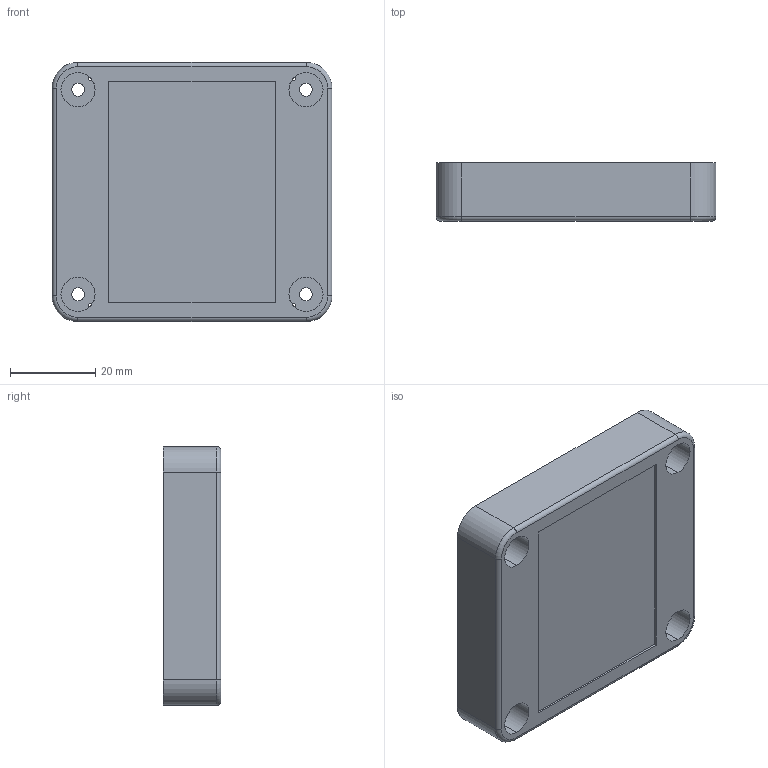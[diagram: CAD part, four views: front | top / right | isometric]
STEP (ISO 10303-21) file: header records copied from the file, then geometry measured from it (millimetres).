
FILE_DESCRIPTION (( 'STEP AP214' ), '1' );
FILE_NAME ('Tapa PP74.STEP', '2018-01-04T15:52:44', ( 'aaa' ), ( '' ), 'SwSTEP 2.0', 'SolidWorks 2013', '' );
FILE_SCHEMA (( 'AUTOMOTIVE_DESIGN' ));
Length unit declared in the file: millimetre
Products named in the file (1): Tapa PP74
Bounding box: 65.7 x 13.6 x 60.8 mm (x, y, z)
Volume: 22809.3 mm3; surface area: 15697.3 mm2
Topology: 1 solids, 1 shells, 182 faces, 500 edges, 328 vertices
Faces by surface type: cylinder 96, plane 78, torus 4, bspline 4
Entity records: 6338 total; most frequent: CARTESIAN_POINT 1555, DIRECTION 1002, ORIENTED_EDGE 1000, EDGE_CURVE 500, AXIS2_PLACEMENT_3D 359, VERTEX_POINT 328, VECTOR 284, LINE 284
